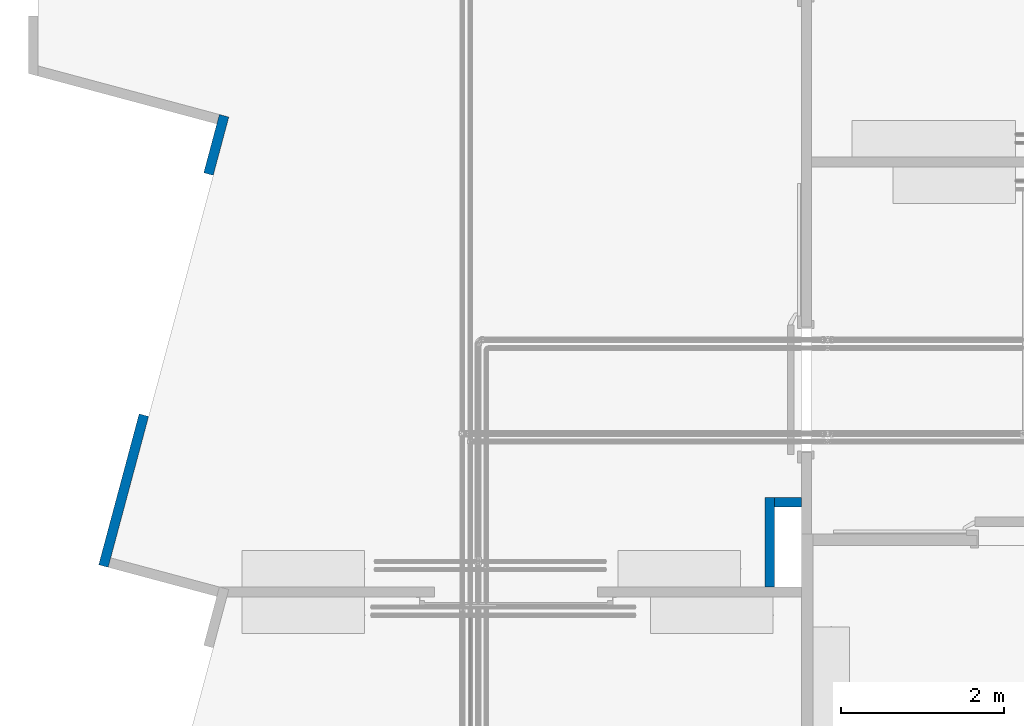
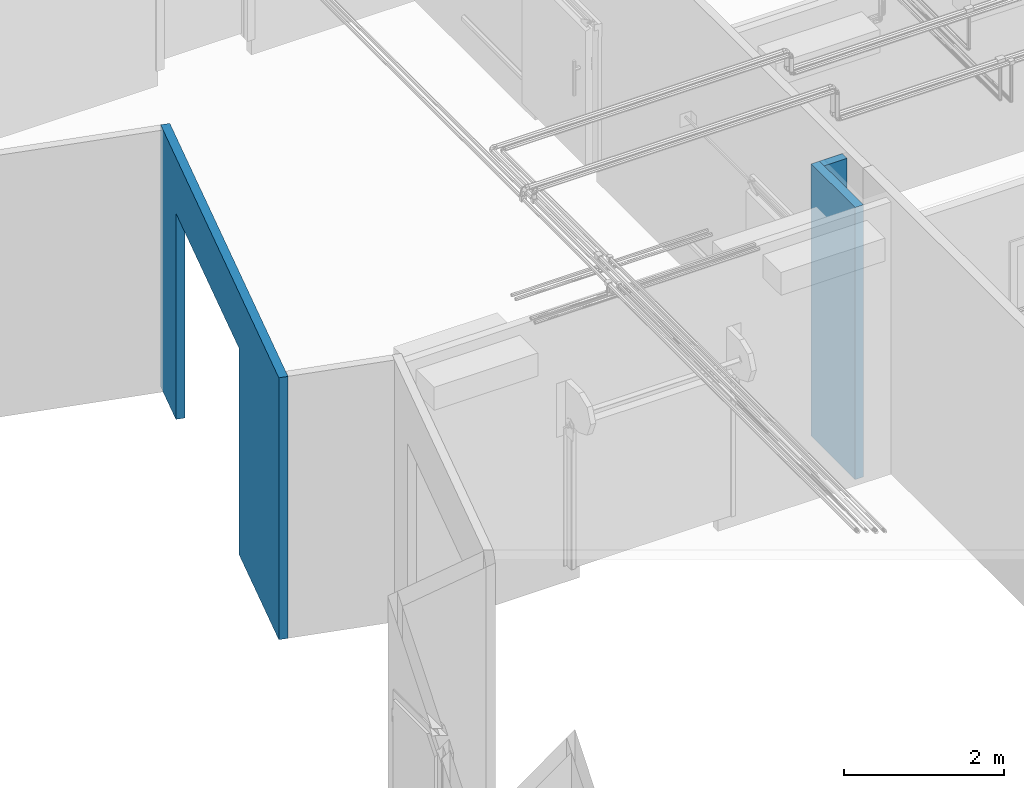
# One storey, part 8 of 652: 3 walls, 1 opening.
"""IFC2X3 building model written with IfcOpenShell, lengths in millimetres."""

from ifc_helpers import new_model, entity, si_unit, converted_unit, direction, frame, frame_2d, origin, place, context, subcontext, project, spatial, rectangle, extrude, material, layer, layer_set, layer_usage, type_object, element, save


model = new_model("IFC2X3")

# Units and contexts
model_context = context("Model", 3, precision=0.01, world=frame((0.0, 0.0, 308426.39999999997)), true_north=direction((6.123233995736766e-17, 1.0)))
plan_context = context("Plan", 3, precision=0.01, world=frame((0.0, 0.0, 308426.39999999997)), true_north=direction((6.123233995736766e-17, 1.0)))
body_context = subcontext(model_context, "Body", "Model", "MODEL_VIEW")
ifc_project = project(units=[si_unit("LENGTHUNIT", "METRE", prefix="MILLI"), si_unit("AREAUNIT", "SQUARE_METRE"), si_unit("VOLUMEUNIT", "CUBIC_METRE"), converted_unit("PLANEANGLEUNIT", "DEGREE", entity("IfcPlaneAngleMeasure", 0.017453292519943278), si_unit("PLANEANGLEUNIT", "RADIAN"), dimensions=[0, 0, 0, 0, 0, 0, 0])], contexts=[model_context, plan_context])

# Site, building, storey
site_placement = place(None, origin())
site = spatial("IfcSite", under=ifc_project, at=site_placement, Name="Default", CompositionType="ELEMENT")
building_placement = place(site_placement, origin())
building = spatial("IfcBuilding", under=site, at=building_placement, CompositionType="ELEMENT")
storey_placement = place(building_placement, frame((0.0, 0.0, 1730.6999999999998)))
storey = spatial("IfcBuildingStorey", under=building, at=storey_placement, Name="EG_Produktion_FFB", CompositionType="ELEMENT", Elevation=1730.6999999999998)

# Wall, opening
ifc_material = material(Name="GPG_Paneelwand")
ifc_layer = layer(ifc_material, 120.0)
ifc_layer_set = layer_set([ifc_layer], Name="Basiswand:Kühlzellen Paneelwand 120")
ifc_layer_usage_1 = layer_usage(ifc_layer_set, "AXIS2", "POSITIVE", -60.0)
wall_type = type_object("IfcWallType", Name="Basiswand:Kühlzellen Paneelwand 120", PredefinedType="STANDARD", material=ifc_layer_set)
wall_1_placement = place(storey_placement, frame((12070.170273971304, 63845.6542139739, 0.0), z_axis=(0.0, 0.0, 1.0), x_axis=(-0.2588190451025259, -0.9659258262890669, 0.0)))
wall_1 = element("IfcWallStandardCase", 1, at=wall_1_placement, inside=storey, type_object=wall_type, material=ifc_layer_usage_1, Name="Basiswand:Kühlzellen Paneelwand 120", ObjectType="Basiswand:Kühlzellen Paneelwand 120", context=body_context, shape_type="SweptSolid", body=[
    extrude(rectangle(XDim=5715.1178747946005, YDim=119.99999999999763, at=frame_2d((2857.5589373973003, -3.410605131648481e-13), x_axis=(-1.0, 0.0))), origin(), (0.0, 0.0, 1.0), 3999.999999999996),
])
opening_placement = place(wall_1_placement, origin())
element("IfcOpeningElement", 2, at=opening_placement, cuts=wall_1, Name="Basiswand:Kühlzellen Paneelwand 120", ObjectType="Opening", context=body_context, shape_type="SweptSolid", body=[
    extrude(rectangle(XDim=3649.9999999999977, YDim=3060.000000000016, at=frame_2d((1.1368683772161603e-13, -2.2737367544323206e-13), x_axis=(1.0, 0.0))), frame((2270.0, -60.0, 1325.0), z_axis=(0.0, 1.0, 0.0), x_axis=(0.0, 0.0, -1.0)), (0.0, 0.0, 1.0), 119.9999999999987),
])

# Walls
ifc_layer_usage_2 = layer_usage(ifc_layer_set, "AXIS2", "NEGATIVE", 60.0)
wall_2_placement = place(storey_placement, frame((18760.0, 58067.905840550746, -250.0), z_axis=(0.0, 0.0, 1.0), x_axis=(0.0, 1.0, 0.0)))
element("IfcWallStandardCase", 3, at=wall_2_placement, inside=storey, type_object=wall_type, material=ifc_layer_usage_2, Name="Basiswand:Kühlzellen Paneelwand 120", ObjectType="Basiswand:Kühlzellen Paneelwand 120", context=body_context, shape_type="SweptSolid", body=[
    extrude(rectangle(XDim=1100.0000000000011, YDim=119.9999999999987, at=frame_2d((550.0000000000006, 1.1013412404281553e-13), x_axis=(-1.0, 0.0))), origin(), (0.0, 0.0, 1.0), 4158.0),
])
ifc_layer_usage_3 = layer_usage(ifc_layer_set, "AXIS2", "POSITIVE", -60.0)
wall_3_placement = place(storey_placement, frame((18820.0, 59107.905840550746, -250.0)))
element("IfcWallStandardCase", 4, at=wall_3_placement, inside=storey, type_object=wall_type, material=ifc_layer_usage_3, Name="Basiswand:Kühlzellen Paneelwand 120", ObjectType="Basiswand:Kühlzellen Paneelwand 120", context=body_context, shape_type="SweptSolid", body=[
    extrude(rectangle(XDim=329.99999999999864, YDim=120.00000000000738, at=frame_2d((164.99999999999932, 0.0), x_axis=(-1.0, 0.0))), origin(), (0.0, 0.0, 1.0), 4158.0),
])

save(model, "model.ifc")
